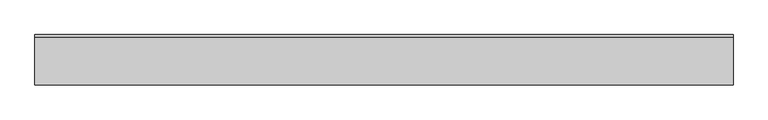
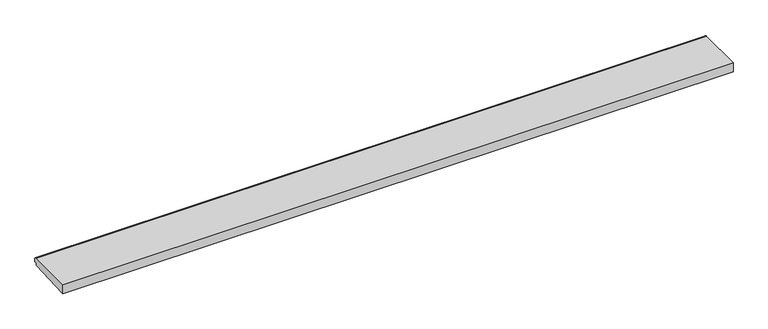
"""IFC4 building model written with IfcOpenShell, lengths in millimetres: proxy geometry, ARQ_BANCA_T3 : ARQ_BANCA_T3."""

from ifc_helpers import new_model, si_unit, point, frame, frame_2d, origin, place, context, project, spatial, polyline, circle_curve, trimmed, segment, composite_curve, outline, extrude, source, transform, mapped, element, save


def generic_models_d6cf0f50(model_context):
    return source(origin(), model_context, "Body", "SweptSolid", [
        extrude(outline(composite_curve([segment(polyline([(458.9887539, 322.2211934), (0.0, 302.6129318), (0.0, 400.0), (459.0, 399.921901)]), True, "CONTINUOUS"), segment(trimmed(circle_curve(frame_2d((459.0, 379.921901)), 20.0), [point((459.0, 399.921901))], [point((479.0, 379.921901))], False, "CARTESIAN"), True, "CONTINUOUS"), segment(polyline([(479.0, 379.921901), (479.0, 349.9219009), (458.9887539, 349.9219009), (458.9887539, 322.2211934)]), True, "CONTINUOUS")], self_intersect=False)), frame((-3324.9121765, 0.0, 0.0), z_axis=(1.0, 0.0, 0.0), x_axis=(0.0, 1.0, 0.0)), (0.0, 0.0, 1.0), 6649.8243529),
    ])


if __name__ == "__main__":
    model = new_model("IFC4")
    model_context = context("Model", 3, world=origin())
    ifc_project = project(units=[si_unit("LENGTHUNIT", "METRE", prefix="MILLI")], contexts=[model_context])
    site = spatial("IfcSite", under=ifc_project)
    building = spatial("IfcBuilding", under=site)
    placement = place(None, origin())
    generic_models_shape = generic_models_d6cf0f50(model_context)
    element("IfcBuildingElementProxy", 1, Name="ARQ_BANCA_T3 : ARQ_BANCA_T3", ObjectType="ARQ_BANCA_T3 : ARQ_BANCA_T3", at=placement, inside=building, context=model_context, shape_type="MappedRepresentation", body=[
        mapped(generic_models_shape, transform((0.0, 0.0, 0.0), x_axis=(1.0, 0.0, 0.0), y_axis=(0.0, 1.0, 0.0), z_axis=(0.0, 0.0, 1.0))),
    ])
    save(model, "model.ifc")
